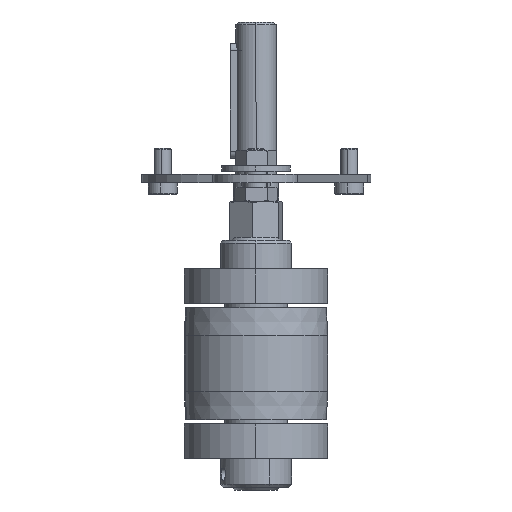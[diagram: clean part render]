
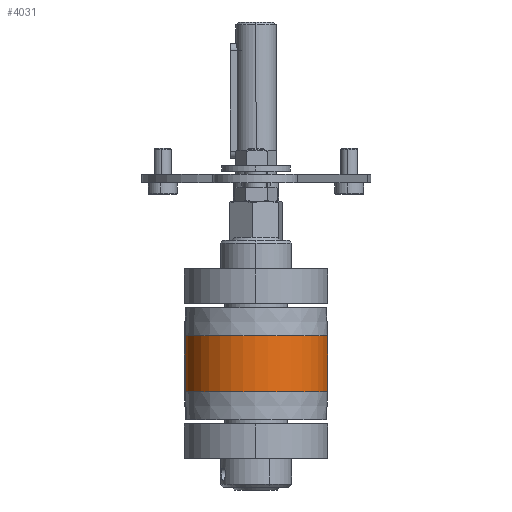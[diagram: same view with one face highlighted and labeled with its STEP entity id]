
A CAD part, left-side view. The second image highlights one B-rep face of the part: STEP entity #4031.
In plain terms, the highlighted cylindrical face has radius 25 mm (diameter 50 mm), a partial arc.
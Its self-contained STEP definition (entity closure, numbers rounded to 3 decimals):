
#350 = CARTESIAN_POINT ( 'NONE',  ( 53.75, 0., 0. ) ) ;
#547 = EDGE_LOOP ( 'NONE', ( #682, #6243, #9309, #7605 ) ) ;
#660 = DIRECTION ( 'NONE',  ( 0., -1., 0. ) ) ;
#682 = ORIENTED_EDGE ( 'NONE', *, *, #5443, .F. ) ;
#883 = EDGE_CURVE ( 'NONE', #2434, #10394, #5336, .T. ) ;
#938 = VECTOR ( 'NONE', #2187, 1000. ) ;
#1174 = EDGE_CURVE ( 'NONE', #13690, #10394, #12685, .T. ) ;
#1491 = DIRECTION ( 'NONE',  ( 0., -1., 0. ) ) ;
#1685 = VECTOR ( 'NONE', #6414, 1000. ) ;
#2187 = DIRECTION ( 'NONE',  ( -1., 0., 0. ) ) ;
#2434 = VERTEX_POINT ( 'NONE', #5141 ) ;
#3788 = CIRCLE ( 'NONE', #10328, 25. ) ;
#3811 = AXIS2_PLACEMENT_3D ( 'NONE', #10992, #4274, #12107 ) ;
#4031 = ADVANCED_FACE ( 'NONE', ( #4999 ), #13603, .T. ) ;
#4274 = DIRECTION ( 'NONE',  ( -1., 0., 0. ) ) ;
#4999 = FACE_OUTER_BOUND ( 'NONE', #547, .T. ) ;
#5141 = CARTESIAN_POINT ( 'NONE',  ( 53.75, -25., 0. ) ) ;
#5336 = LINE ( 'NONE', #14249, #1685 ) ;
#5443 = EDGE_CURVE ( 'NONE', #6372, #13690, #12809, .T. ) ;
#6243 = ORIENTED_EDGE ( 'NONE', *, *, #7253, .T. ) ;
#6372 = VERTEX_POINT ( 'NONE', #13990 ) ;
#6414 = DIRECTION ( 'NONE',  ( -1., 0., 0. ) ) ;
#6860 = CARTESIAN_POINT ( 'NONE',  ( 34.25, 25., 0. ) ) ;
#7253 = EDGE_CURVE ( 'NONE', #6372, #2434, #3788, .T. ) ;
#7605 = ORIENTED_EDGE ( 'NONE', *, *, #1174, .F. ) ;
#8209 = DIRECTION ( 'NONE',  ( -1., 0., 0. ) ) ;
#9309 = ORIENTED_EDGE ( 'NONE', *, *, #883, .T. ) ;
#10035 = CARTESIAN_POINT ( 'NONE',  ( 0., 25., 0. ) ) ;
#10328 = AXIS2_PLACEMENT_3D ( 'NONE', #350, #8209, #1491 ) ;
#10394 = VERTEX_POINT ( 'NONE', #11889 ) ;
#10730 = CARTESIAN_POINT ( 'NONE',  ( 0., 0., 0. ) ) ;
#10992 = CARTESIAN_POINT ( 'NONE',  ( 34.25, 0., 0. ) ) ;
#11432 = AXIS2_PLACEMENT_3D ( 'NONE', #10730, #11827, #660 ) ;
#11827 = DIRECTION ( 'NONE',  ( -1., 0., 0. ) ) ;
#11889 = CARTESIAN_POINT ( 'NONE',  ( 34.25, -25., 0. ) ) ;
#12107 = DIRECTION ( 'NONE',  ( 0., -1., 0. ) ) ;
#12685 = CIRCLE ( 'NONE', #3811, 25. ) ;
#12809 = LINE ( 'NONE', #10035, #938 ) ;
#13603 = CYLINDRICAL_SURFACE ( 'NONE', #11432, 25. ) ;
#13690 = VERTEX_POINT ( 'NONE', #6860 ) ;
#13990 = CARTESIAN_POINT ( 'NONE',  ( 53.75, 25., 0. ) ) ;
#14249 = CARTESIAN_POINT ( 'NONE',  ( 0., -25., 0. ) ) ;
